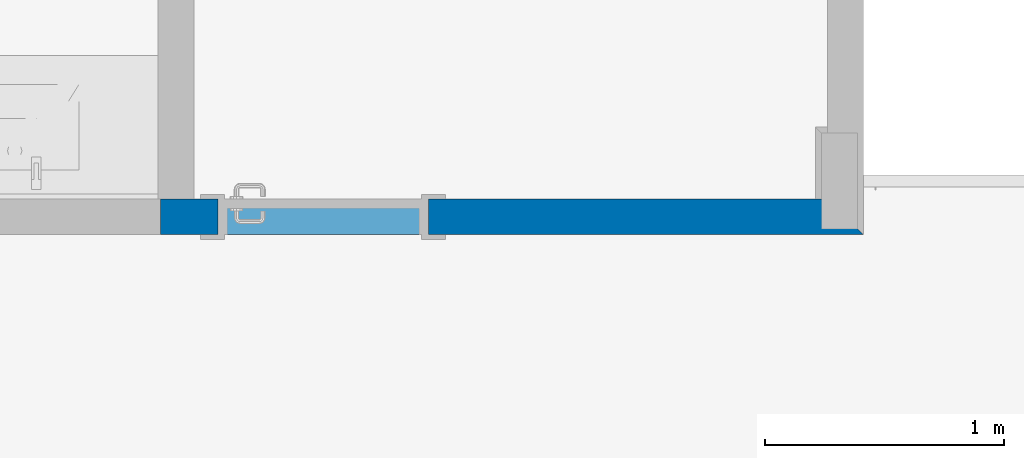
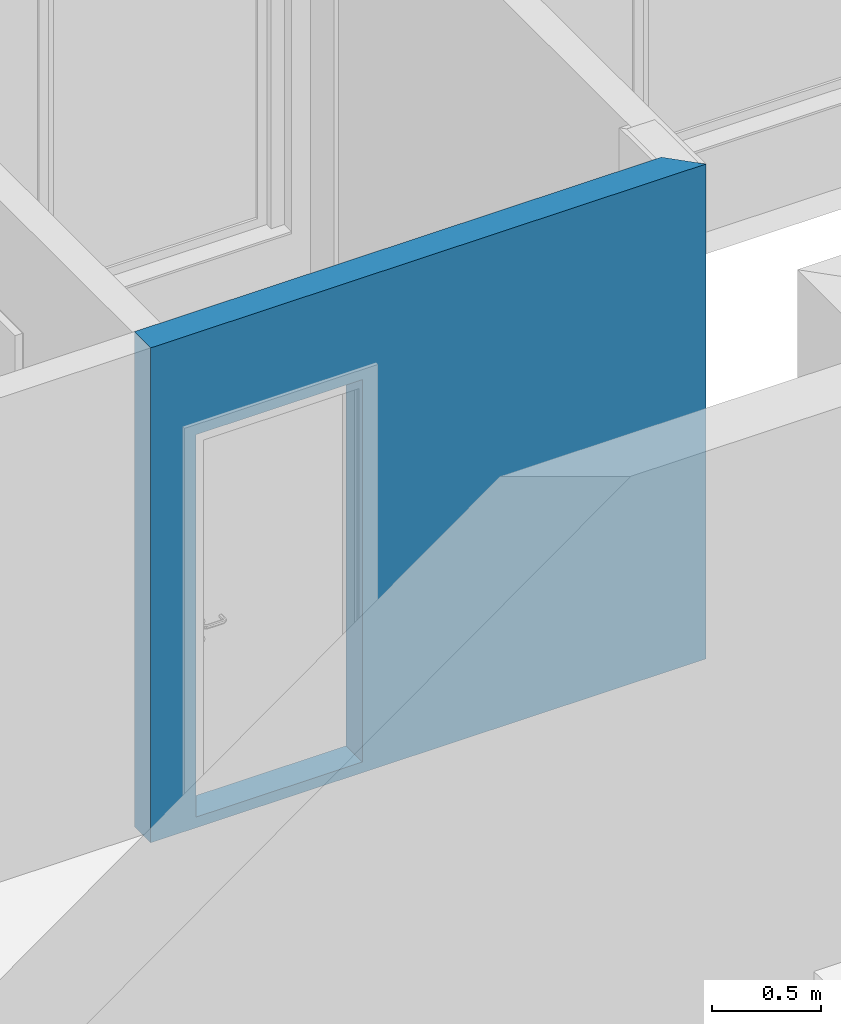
# One storey, part 5 of 24: 1 wall, 1 opening.
"""IFC2X3 building model written with IfcOpenShell, lengths in millimetres."""

from ifc_helpers import new_model, entity, si_unit, converted_unit, money_unit, direction, frame, origin_with_axes, origin_2d_with_axis, place, context, subcontext, project, spatial, polyline, rectangle, outline, extrude, material, layer, layer_set, layer_usage, type_object, element, save


model = new_model("IFC2X3")

# Units and contexts
model_context = context("Model", 3, precision=1e-05, world=origin_with_axes(), true_north=direction((0.0, 1.0)))
body_context = subcontext(model_context, "Body", "Model", "MODEL_VIEW")
ifc_project = project(units=[si_unit("LENGTHUNIT", "METRE", prefix="MILLI"), si_unit("AREAUNIT", "SQUARE_METRE"), si_unit("VOLUMEUNIT", "CUBIC_METRE"), converted_unit("PLANEANGLEUNIT", "DEGREE", entity("IfcPlaneAngleMeasure", 0.0174532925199), si_unit("PLANEANGLEUNIT", "RADIAN"), dimensions=[0, 0, 0, 0, 0, 0, 0]), si_unit("SOLIDANGLEUNIT", "STERADIAN"), money_unit("USD"), converted_unit("TIMEUNIT", "Year", entity("IfcTimeMeasure", 31556926.0), si_unit("TIMEUNIT", "SECOND"), dimensions=[0, 0, 0, 0, 0, 0, 0]), si_unit("MASSUNIT", "GRAM"), si_unit("THERMODYNAMICTEMPERATUREUNIT", "DEGREE_CELSIUS"), si_unit("LUMINOUSINTENSITYUNIT", "LUMEN")], contexts=[model_context])

# Site, building, storey
site_placement = place(None, origin_with_axes())
site = spatial("IfcSite", under=ifc_project, at=site_placement, Name="Grove Residential", CompositionType="ELEMENT")
building_placement = place(site_placement, origin_with_axes())
building = spatial("IfcBuilding", under=site, at=building_placement, Name="Building", CompositionType="ELEMENT")
storey_placement = place(building_placement, frame((0.0, 0.0, 3740.0), z_axis=(0.0, 0.0, 1.0), x_axis=(1.0, 0.0, 0.0)))
storey = spatial("IfcBuildingStorey", under=building, at=storey_placement, Name="First Floor", CompositionType="ELEMENT", Elevation=3740.0)

# Wall, opening
ifc_material_1 = material(Name="Gypsum Plasterboard")
ifc_layer_1 = layer(ifc_material_1, 12.5, ventilated="UNKNOWN")
ifc_layer_2 = layer(ifc_material_1, 12.5, ventilated="UNKNOWN")
ifc_material_2 = material(Name="Air Space - Frame")
ifc_layer_3 = layer(ifc_material_2, 50.0, ventilated="UNKNOWN")
ifc_material_3 = material(Name="Insulation - Mineral Soft")
ifc_layer_4 = layer(ifc_material_3, 50.0, ventilated="UNKNOWN")
ifc_layer_5 = layer(ifc_material_1, 12.5, ventilated="UNKNOWN")
ifc_layer_6 = layer(ifc_material_1, 12.5, ventilated="UNKNOWN")
ifc_layer_set = layer_set([ifc_layer_1, ifc_layer_2, ifc_layer_3, ifc_layer_4, ifc_layer_5, ifc_layer_6], Name="IWF-001")
ifc_layer_usage = layer_usage(ifc_layer_set, "AXIS2", "POSITIVE", -150.0)
wall_type = type_object("IfcWallType", Name="IWF-001 150", PredefinedType="NOTDEFINED")
wall_placement = place(storey_placement, frame((740.0, 3524.99996722, -60.0), z_axis=(0.0, 0.0, 1.0), x_axis=(-1.0, 0.0, 0.0)))
wall = element("IfcWallStandardCase", 1, at=wall_placement, inside=storey, type_object=wall_type, material=ifc_layer_usage, Name="SW - 001", context=body_context, shape_type="SweptSolid", body=[
    extrude(outline(polyline([(150.0, -150.0), (2940.0, -150.0), (2940.0, 0.0), (0.0, 0.0), (150.0, -150.0)])), origin_with_axes(), (0.0, 0.0, 1.0), 2770.0),
])
opening_placement = place(wall_placement, frame((2260.0, 0.0, 60.0), z_axis=(0.0, 0.0, 1.0), x_axis=(1.0, 0.0, 0.0)))
element("IfcOpeningElement", 2, at=opening_placement, cuts=wall, Name="D.01", context=body_context, shape_type="SweptSolid", body=[
    extrude(rectangle(XDim=880.0, YDim=2140.0, at=origin_2d_with_axis()), frame((0.0, -150.0, 1070.0), z_axis=(0.0, 1.0, 0.0), x_axis=(-1.0, 0.0, 0.0)), (0.0, 0.0, 1.0), 450.0),
    extrude(rectangle(XDim=1024.0, YDim=2212.0, at=origin_2d_with_axis()), frame((0.0, -150.0, 1106.0), z_axis=(0.0, 1.0, 0.0), x_axis=(-1.0, 0.0, 0.0)), (0.0, 0.0, -1.0), 150.0),
    extrude(rectangle(XDim=1024.0, YDim=2212.0, at=origin_2d_with_axis()), frame((0.0, 0.0, 1106.0), z_axis=(0.0, -1.0, 0.0), x_axis=(-1.0, 0.0, 0.0)), (0.0, 0.0, -1.0), 150.0),
])

save(model, "model.ifc")
